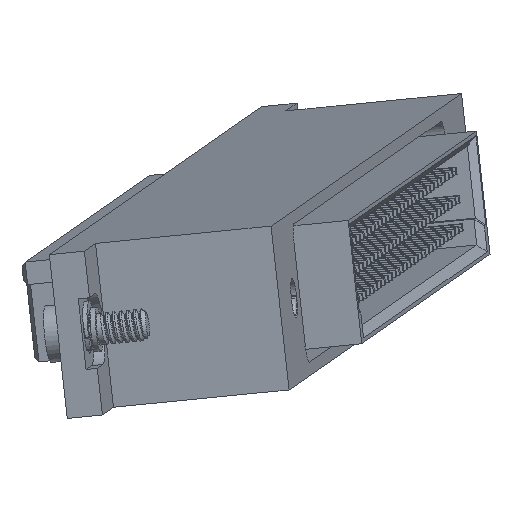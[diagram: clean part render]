
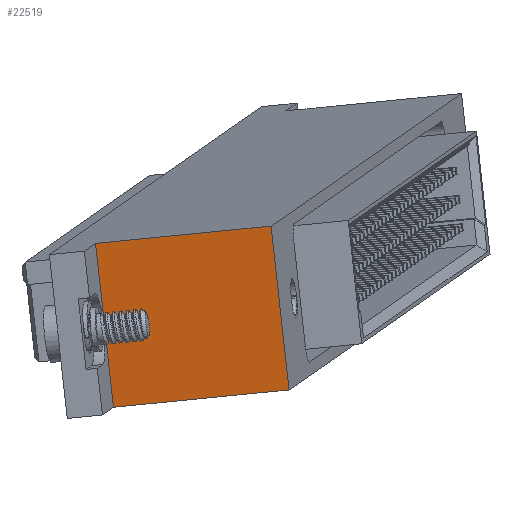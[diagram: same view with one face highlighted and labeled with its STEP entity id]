
A CAD part, top view. The second image highlights one B-rep face of the part: STEP entity #22519.
In plain terms, the highlighted planar face has unit normal (-0.13, -0.092, 0.987).
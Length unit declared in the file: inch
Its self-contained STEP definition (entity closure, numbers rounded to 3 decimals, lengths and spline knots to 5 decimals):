
#16045=CARTESIAN_POINT('',(-3.138,6.18351,4.1639));
#16046=VERTEX_POINT('',#16045);
#16053=CARTESIAN_POINT('',(-3.75399,6.12282,4.0773));
#16054=VERTEX_POINT('',#16053);
#16055=CARTESIAN_POINT('',(-3.138,6.18351,4.1639));
#16056=DIRECTION('',(-0.986,-0.097,-0.139));
#16057=VECTOR('',#16056,0.625);
#16058=LINE('',#16055,#16057);
#16059=EDGE_CURVE('',#16046,#16054,#16058,.T.);
#21440=CARTESIAN_POINT('',(-3.81699,6.69761,4.12259));
#21441=VERTEX_POINT('',#21440);
#21442=CARTESIAN_POINT('',(-3.75399,6.12282,4.0773));
#21443=DIRECTION('',(-0.109,0.991,0.078));
#21444=VECTOR('',#21443,0.58);
#21445=LINE('',#21442,#21444);
#21446=EDGE_CURVE('',#16054,#21441,#21445,.T.);
#22074=CARTESIAN_POINT('',(-3.201,6.7583,4.2092));
#22075=VERTEX_POINT('',#22074);
#22082=CARTESIAN_POINT('',(-3.138,6.18351,4.1639));
#22083=DIRECTION('',(-0.109,0.991,0.078));
#22084=VECTOR('',#22083,0.58);
#22085=LINE('',#22082,#22084);
#22086=EDGE_CURVE('',#16046,#22075,#22085,.T.);
#22503=CARTESIAN_POINT('',(-3.138,6.18351,4.1639));
#22504=DIRECTION('',(-0.13,-0.092,0.987));
#22505=DIRECTION('',(0.109,-0.991,-0.078));
#22506=AXIS2_PLACEMENT_3D('',#22503,#22504,#22505);
#22507=PLANE('',#22506);
#22508=CARTESIAN_POINT('',(-3.201,6.7583,4.2092));
#22509=DIRECTION('',(-0.986,-0.097,-0.139));
#22510=VECTOR('',#22509,0.625);
#22511=LINE('',#22508,#22510);
#22512=EDGE_CURVE('',#22075,#21441,#22511,.T.);
#22513=ORIENTED_EDGE('',*,*,#22512,.T.);
#22514=ORIENTED_EDGE('',*,*,#21446,.F.);
#22515=ORIENTED_EDGE('',*,*,#16059,.F.);
#22516=ORIENTED_EDGE('',*,*,#22086,.T.);
#22517=EDGE_LOOP('',(#22513,#22514,#22515,#22516));
#22518=FACE_OUTER_BOUND('',#22517,.T.);
#22519=ADVANCED_FACE('',(#22518),#22507,.T.);
